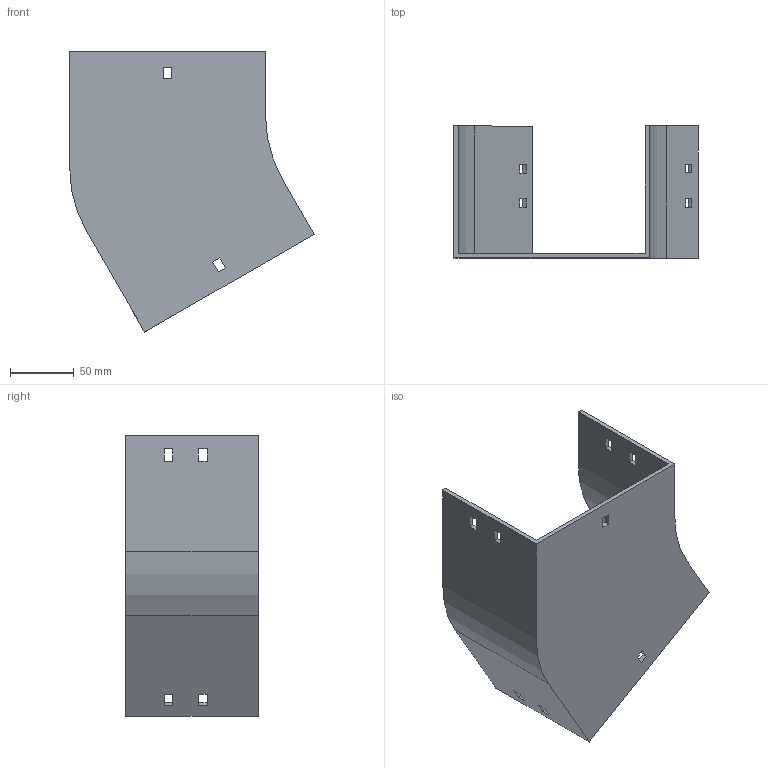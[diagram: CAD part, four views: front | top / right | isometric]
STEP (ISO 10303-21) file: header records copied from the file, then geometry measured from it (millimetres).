
FILE_DESCRIPTION (( 'STEP AP214' ), '1' );
FILE_NAME ('12B1D150.step', '2025-02-21T09:33:26', ( '' ), ( '' ), 'SwSTEP 2.0', 'SolidWorks 2023', '' );
FILE_SCHEMA (( 'AUTOMOTIVE_DESIGN' ));
Length unit declared in the file: millimetre
Products named in the file (1): 12B1D150
Bounding box: 192.4 x 104 x 220.3 mm (x, y, z)
Volume: 238871.3 mm3; surface area: 141507.3 mm2
Topology: 1 solids, 1 shells, 58 faces, 168 edges, 112 vertices
Faces by surface type: plane 54, cylinder 4
Entity records: 1943 total; most frequent: CARTESIAN_POINT 339, ORIENTED_EDGE 336, DIRECTION 294, EDGE_CURVE 168, LINE 160, VECTOR 160, VERTEX_POINT 112, EDGE_LOOP 78
